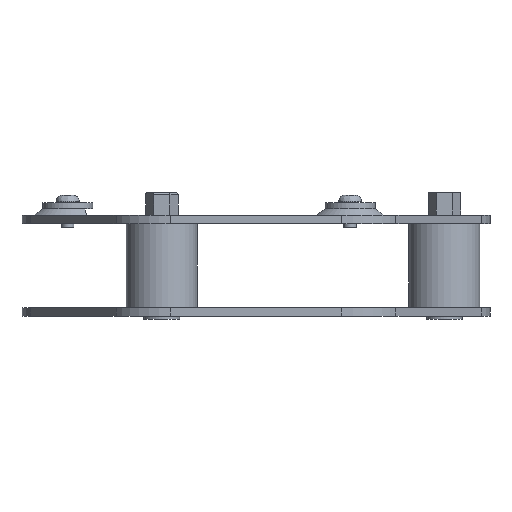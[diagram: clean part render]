
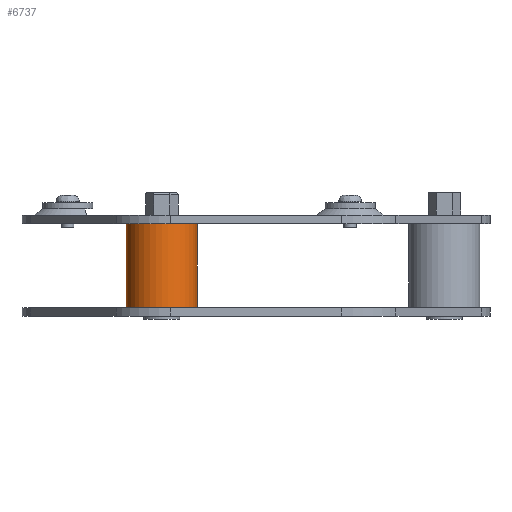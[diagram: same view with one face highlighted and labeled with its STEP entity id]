
A CAD part, front view. The second image highlights one B-rep face of the part: STEP entity #6737.
In plain terms, the highlighted cylindrical face has radius 17 mm (diameter 34 mm), a partial arc.
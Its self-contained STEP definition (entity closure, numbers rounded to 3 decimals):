
#6702 = VERTEX_POINT ( 'NONE', #9514 ) ;
#6703 = VERTEX_POINT ( 'NONE', #9513 ) ;
#6705 = EDGE_CURVE ( 'NONE', #6703, #6706, #9512, .T. ) ;
#6706 = VERTEX_POINT ( 'NONE', #9508 ) ;
#6708 = VERTEX_POINT ( 'NONE', #9507 ) ;
#6737 = ADVANCED_FACE ( 'NONE', ( #9586 ), #9585, .T. ) ;
#6738 = EDGE_LOOP ( 'NONE', ( #6739, #6740, #6741, #6742 ) ) ;
#6739 = ORIENTED_EDGE ( 'NONE', *, *, #6705, .F. ) ;
#6740 = ORIENTED_EDGE ( 'NONE', *, *, #6760, .T. ) ;
#6741 = ORIENTED_EDGE ( 'NONE', *, *, #6755, .T. ) ;
#6742 = ORIENTED_EDGE ( 'NONE', *, *, #6764, .T. ) ;
#6755 = EDGE_CURVE ( 'NONE', #6702, #6708, #9627, .T. ) ;
#6760 = EDGE_CURVE ( 'NONE', #6703, #6702, #9617, .T. ) ;
#6764 = EDGE_CURVE ( 'NONE', #6708, #6706, #9606, .T. ) ;
#9507 = CARTESIAN_POINT ( 'NONE',  ( -426.977, 664.735, -9.982 ) ) ;
#9508 = CARTESIAN_POINT ( 'NONE',  ( -460.977, 664.735, -9.982 ) ) ;
#9509 = DIRECTION ( 'NONE',  ( 0., 0., 1. ) ) ;
#9510 = VECTOR ( 'NONE', #9509, 1000. ) ;
#9511 = CARTESIAN_POINT ( 'NONE',  ( -460.977, 664.735, -49.982 ) ) ;
#9512 = LINE ( 'NONE', #9511, #9510 ) ;
#9513 = CARTESIAN_POINT ( 'NONE',  ( -460.977, 664.735, -49.982 ) ) ;
#9514 = CARTESIAN_POINT ( 'NONE',  ( -426.977, 664.735, -49.982 ) ) ;
#9580 = DIRECTION ( 'NONE',  ( 1., 0., 0. ) ) ;
#9581 = DIRECTION ( 'NONE',  ( 0., 0., 1. ) ) ;
#9582 = CARTESIAN_POINT ( 'NONE',  ( -443.977, 664.735, -49.982 ) ) ;
#9583 = AXIS2_PLACEMENT_3D ( 'NONE', #9582, #9581, #9580 ) ;
#9585 = CYLINDRICAL_SURFACE ( 'NONE', #9583, 17. ) ;
#9586 = FACE_OUTER_BOUND ( 'NONE', #6738, .T. ) ;
#9602 = DIRECTION ( 'NONE',  ( 1., 0., 0. ) ) ;
#9603 = DIRECTION ( 'NONE',  ( 0., 0., -1. ) ) ;
#9604 = CARTESIAN_POINT ( 'NONE',  ( -443.977, 664.735, -9.982 ) ) ;
#9605 = AXIS2_PLACEMENT_3D ( 'NONE', #9604, #9603, #9602 ) ;
#9606 = CIRCLE ( 'NONE', #9605, 17. ) ;
#9613 = DIRECTION ( 'NONE',  ( 1., 0., 0. ) ) ;
#9614 = DIRECTION ( 'NONE',  ( 0., 0., 1. ) ) ;
#9615 = CARTESIAN_POINT ( 'NONE',  ( -443.977, 664.735, -49.982 ) ) ;
#9616 = AXIS2_PLACEMENT_3D ( 'NONE', #9615, #9614, #9613 ) ;
#9617 = CIRCLE ( 'NONE', #9616, 17. ) ;
#9624 = DIRECTION ( 'NONE',  ( 0., 0., 1. ) ) ;
#9625 = VECTOR ( 'NONE', #9624, 1000. ) ;
#9626 = CARTESIAN_POINT ( 'NONE',  ( -426.977, 664.735, -49.982 ) ) ;
#9627 = LINE ( 'NONE', #9626, #9625 ) ;
